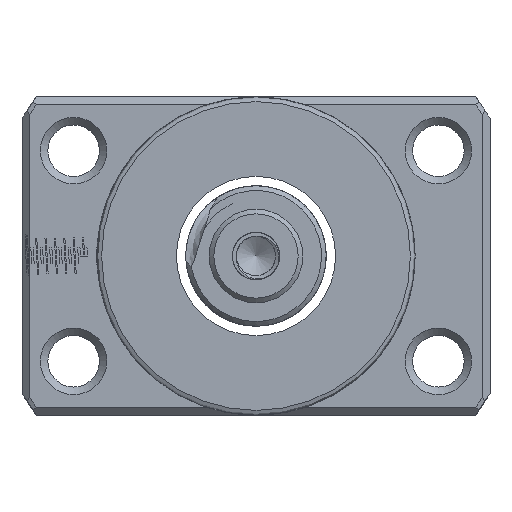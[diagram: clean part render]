
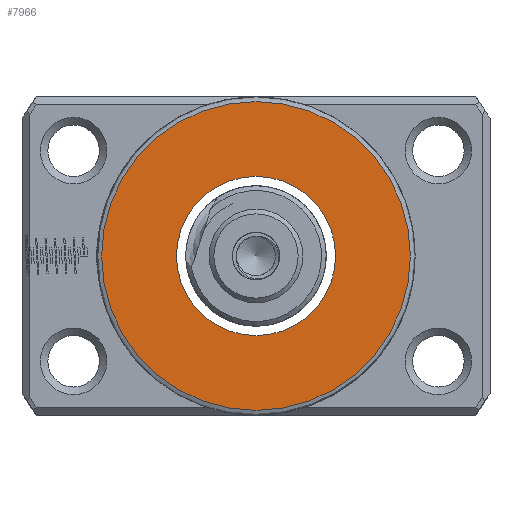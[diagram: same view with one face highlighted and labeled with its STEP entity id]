
A CAD part, left-side view. The second image highlights one B-rep face of the part: STEP entity #7966.
In plain terms, the highlighted planar face has unit normal (-1, 0, 0).
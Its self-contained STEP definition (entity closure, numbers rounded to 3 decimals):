
#879 = DIRECTION ( 'NONE',  ( -1., 0., 0. ) ) ;
#2127 = EDGE_CURVE ( 'NONE', #15094, #15094, #12795, .T. ) ;
#3573 = ORIENTED_EDGE ( 'NONE', *, *, #2127, .F. ) ;
#3860 = AXIS2_PLACEMENT_3D ( 'NONE', #15317, #16584, #10965 ) ;
#4058 = FACE_BOUND ( 'NONE', #4264, .T. ) ;
#4090 = EDGE_CURVE ( 'NONE', #6125, #6125, #5091, .T. ) ;
#4242 = CARTESIAN_POINT ( 'NONE',  ( -53.324, 8.5, 0. ) ) ;
#4264 = EDGE_LOOP ( 'NONE', ( #3573 ) ) ;
#4485 = CARTESIAN_POINT ( 'NONE',  ( -53.324, 0., 8.5 ) ) ;
#5091 = CIRCLE ( 'NONE', #10022, 16.5 ) ;
#5208 = EDGE_LOOP ( 'NONE', ( #6754 ) ) ;
#6125 = VERTEX_POINT ( 'NONE', #16267 ) ;
#6754 = ORIENTED_EDGE ( 'NONE', *, *, #4090, .T. ) ;
#7966 = ADVANCED_FACE ( 'NONE', ( #17464, #4058 ), #8668, .T. ) ;
#8668 = PLANE ( 'NONE',  #13438 ) ;
#10022 = AXIS2_PLACEMENT_3D ( 'NONE', #15086, #879, #11095 ) ;
#10965 = DIRECTION ( 'NONE',  ( 0., 0., 1. ) ) ;
#11095 = DIRECTION ( 'NONE',  ( 0., 0., 1. ) ) ;
#12795 = CIRCLE ( 'NONE', #3860, 8.5 ) ;
#13438 = AXIS2_PLACEMENT_3D ( 'NONE', #4242, #14762, #14665 ) ;
#14665 = DIRECTION ( 'NONE',  ( 0., 0., 1. ) ) ;
#14762 = DIRECTION ( 'NONE',  ( -1., 0., 0. ) ) ;
#15086 = CARTESIAN_POINT ( 'NONE',  ( -53.324, 0., 0. ) ) ;
#15094 = VERTEX_POINT ( 'NONE', #4485 ) ;
#15317 = CARTESIAN_POINT ( 'NONE',  ( -53.324, 0., 0. ) ) ;
#16267 = CARTESIAN_POINT ( 'NONE',  ( -53.324, 0., 16.5 ) ) ;
#16584 = DIRECTION ( 'NONE',  ( -1., 0., 0. ) ) ;
#17464 = FACE_OUTER_BOUND ( 'NONE', #5208, .T. ) ;
